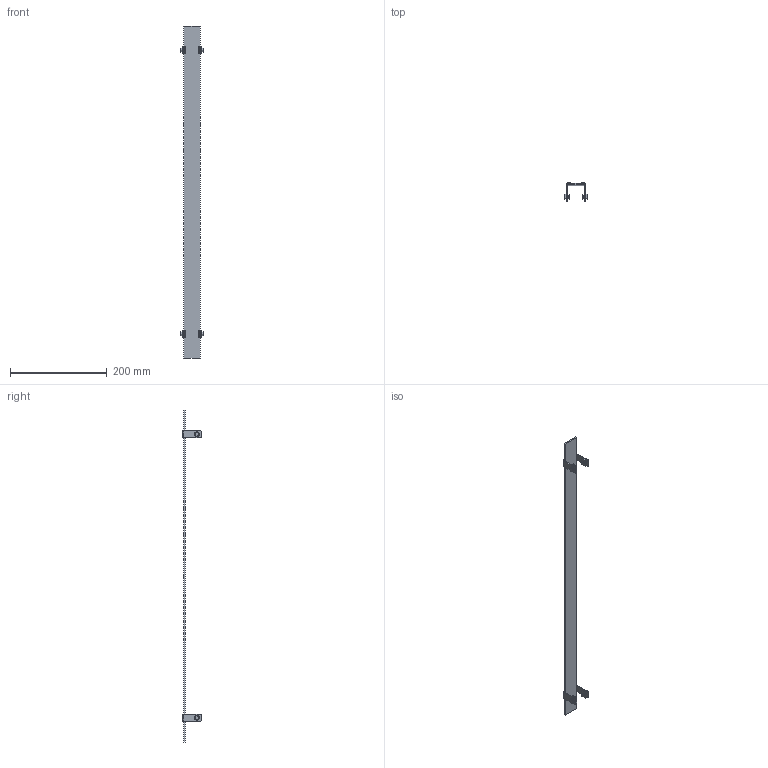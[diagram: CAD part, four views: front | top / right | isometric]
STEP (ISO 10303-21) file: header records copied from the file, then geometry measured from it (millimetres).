
FILE_DESCRIPTION((''),'2;1');
FILE_NAME('2011177_ASM','2012-09-05T',('rink'),(''),'PRO/ENGINEER BY PARAMETRIC TECHNOLOGY CORPORATION, 2011040','PRO/ENGINEER BY PARAMETRIC TECHNOLOGY CORPORATION, 2011040','');
FILE_SCHEMA(('AUTOMOTIVE_DESIGN_CC2 { 1 2 10303 214 -1 1 5 2 }'));
Length unit declared in the file: millimetre
Products named in the file (7): 2011176; 2011161; 2003292; 2011162; 2011167; 2011163_ASM; 2011177_ASM
Assembly tree (9 placements, depth 3):
  2011177_ASM
    2011176
    2011163_ASM  x4
      2011161
      2003292
      2011162
      2011167
Bounding box: 46.8 x 38 x 686 mm (x, y, z)
Volume: 75836.3 mm3; surface area: 59475 mm2
Topology: 17 solids, 21 shells, 373 faces, 945 edges, 650 vertices
Faces by surface type: plane 241, cylinder 84, cone 40, torus 8
Entity records: 5385 total; most frequent: CARTESIAN_POINT 751, DIRECTION 705, ORIENTED_EDGE 604, PRESENTATION_STYLE_ASSIGNMENT 366, STYLED_ITEM 335, CURVE_STYLE 329, EDGE_CURVE 304, VECTOR 237
